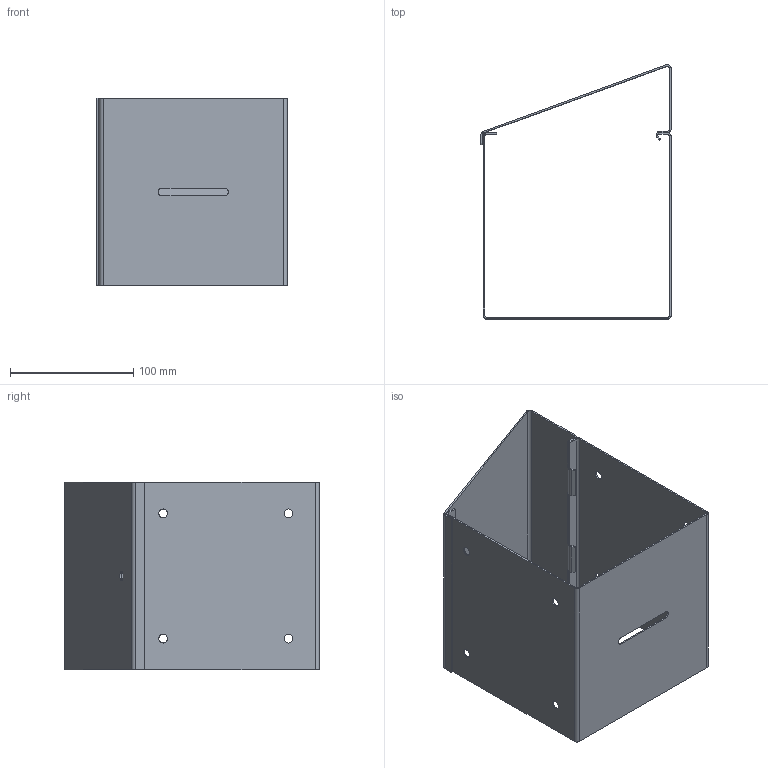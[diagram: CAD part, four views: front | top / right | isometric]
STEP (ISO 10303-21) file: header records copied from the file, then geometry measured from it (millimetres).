
FILE_DESCRIPTION (( 'STEP AP214' ), '1' );
FILE_NAME ('cts66spss.STEP', '2007-05-31T14:51:53', ( '' ), ( '' ), 'SwSTEP 2.0', 'SolidWorks 2007', '' );
FILE_SCHEMA (( 'AUTOMOTIVE_DESIGN' ));
Length unit declared in the file: inch
Products named in the file (3): Splice_Lid_Slopetop_87922455; SPLICE_87796055_6x6; cts66spss
Assembly tree (2 placements, depth 2):
  cts66spss
    Splice_Lid_Slopetop_87922455
    SPLICE_87796055_6x6
Bounding box: 154.4 x 206.22 x 152.4 mm (x, y, z)
Volume: 129339.7 mm3; surface area: 215627 mm2
Topology: 2 solids, 2 shells, 127 faces, 301 edges, 178 vertices
Faces by surface type: plane 76, cylinder 51
Entity records: 3735 total; most frequent: DIRECTION 671, CARTESIAN_POINT 611, ORIENTED_EDGE 602, EDGE_CURVE 301, AXIS2_PLACEMENT_3D 238, VECTOR 195, LINE 195, VERTEX_POINT 178
